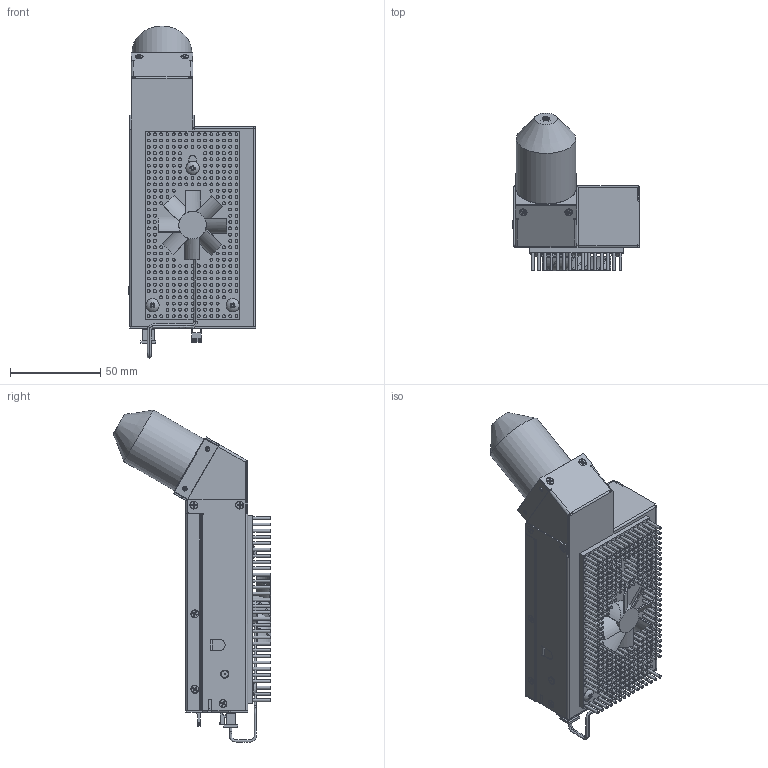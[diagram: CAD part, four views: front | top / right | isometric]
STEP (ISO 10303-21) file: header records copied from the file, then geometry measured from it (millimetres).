
FILE_DESCRIPTION (( 'STEP AP214' ), '1' );
FILE_NAME ('TUB00154-60 DEGREE.STEP', '2025-01-23T17:31:52', ( '' ), ( '' ), 'SwSTEP 2.0', 'SolidWorks 2023', '' );
FILE_SCHEMA (( 'AUTOMOTIVE_DESIGN' ));
Products named in the file (1): TUB00154-60 DEGREE
Bounding box: 70.51 x 87.4 x 184.24 mm (x, y, z)
Volume: 295074.2 mm3; surface area: 84283.8 mm2
Topology: 1 solids, 32 shells, 2634 faces, 6287 edges, 4085 vertices
Faces by surface type: plane 1700, cylinder 645, cone 258, bspline 24, torus 4, sphere 3
Full cylindrical faces by diameter (mm): 1.6 x314, 1.694 x4, 1.778 x8, 1.846 x12, 1.9 x1, 2.05 x11, 2.184 x10, 2.387 x6, 2.819 x1, 3.429 x4, 3.454 x10, 3.87 x9, 3.962 x2, 4.083 x6, 4.19 x10, 4.216 x6, 5.461 x2, 5.588 x4, 6.35 x5, 7.34 x3, 9.652 x1, 15.24 x1, 30.48 x1, 33.02 x1
Entity records: 83763 total; most frequent: CARTESIAN_POINT 26495, DIRECTION 11567, ORIENTED_EDGE 10870, EDGE_CURVE 5435, AXIS2_PLACEMENT_3D 4206, VERTEX_POINT 3817, EDGE_LOOP 3766, VECTOR 3155
